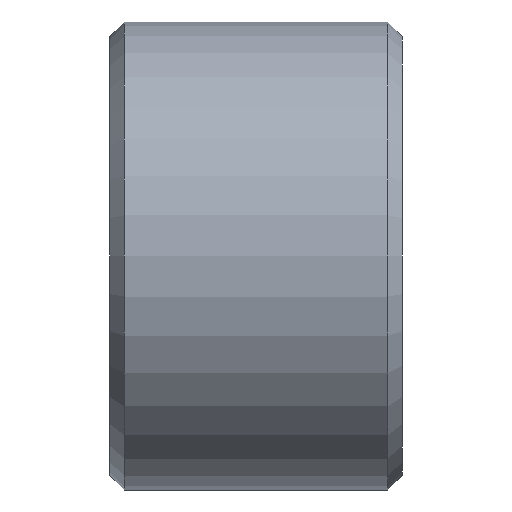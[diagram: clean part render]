
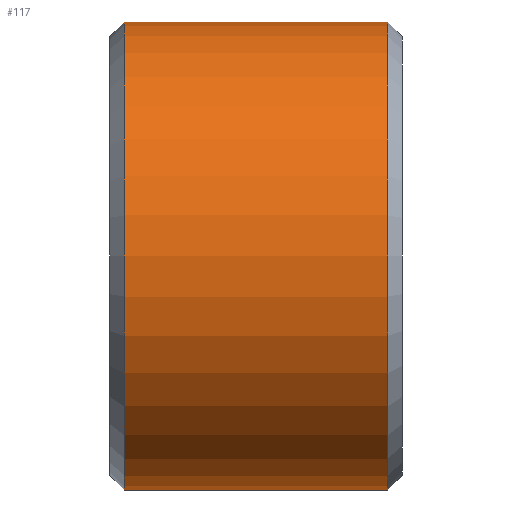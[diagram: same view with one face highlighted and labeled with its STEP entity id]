
A CAD part, front view. The second image highlights one B-rep face of the part: STEP entity #117.
In plain terms, the highlighted cylindrical face has radius 8 mm (diameter 16 mm), a full revolution.
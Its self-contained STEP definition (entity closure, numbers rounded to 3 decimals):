
#27=FACE_OUTER_BOUND('',#36,.T.);
#36=EDGE_LOOP('',(#97,#98,#99,#100));
#44=LINE('',#221,#50);
#50=VECTOR('',#187,8.);
#57=CIRCLE('',#152,8.);
#58=CIRCLE('',#154,8.);
#65=VERTEX_POINT('',#215);
#66=VERTEX_POINT('',#219);
#75=EDGE_CURVE('',#65,#65,#57,.T.);
#77=EDGE_CURVE('',#66,#66,#58,.T.);
#78=EDGE_CURVE('',#66,#65,#44,.T.);
#97=ORIENTED_EDGE('',*,*,#77,.F.);
#98=ORIENTED_EDGE('',*,*,#78,.T.);
#99=ORIENTED_EDGE('',*,*,#75,.T.);
#100=ORIENTED_EDGE('',*,*,#78,.F.);
#112=CYLINDRICAL_SURFACE('',#153,8.);
#117=ADVANCED_FACE('',(#27),#112,.T.);
#152=AXIS2_PLACEMENT_3D('',#216,#180,#181);
#153=AXIS2_PLACEMENT_3D('',#218,#183,#184);
#154=AXIS2_PLACEMENT_3D('',#220,#185,#186);
#180=DIRECTION('center_axis',(1.,0.,0.));
#181=DIRECTION('ref_axis',(0.,0.,-1.));
#183=DIRECTION('center_axis',(1.,0.,0.));
#184=DIRECTION('ref_axis',(0.,1.,0.));
#185=DIRECTION('center_axis',(1.,0.,0.));
#186=DIRECTION('ref_axis',(0.,0.,-1.));
#187=DIRECTION('',(-1.,0.,0.));
#215=CARTESIAN_POINT('',(0.5,-8.,0.));
#216=CARTESIAN_POINT('Origin',(0.5,0.,0.));
#218=CARTESIAN_POINT('Origin',(5.,0.,0.));
#219=CARTESIAN_POINT('',(9.5,-8.,0.));
#220=CARTESIAN_POINT('Origin',(9.5,0.,0.));
#221=CARTESIAN_POINT('',(5.,-8.,0.));
